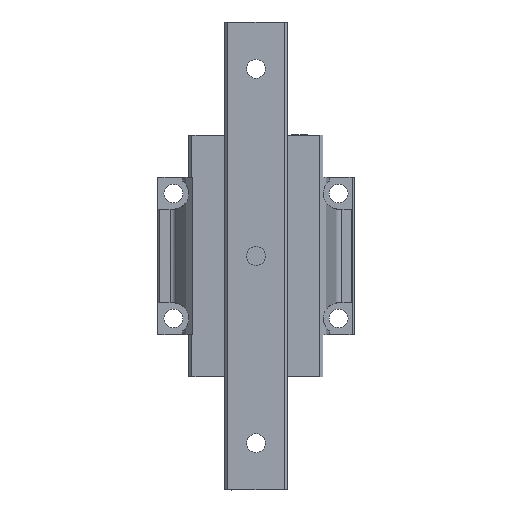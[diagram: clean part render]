
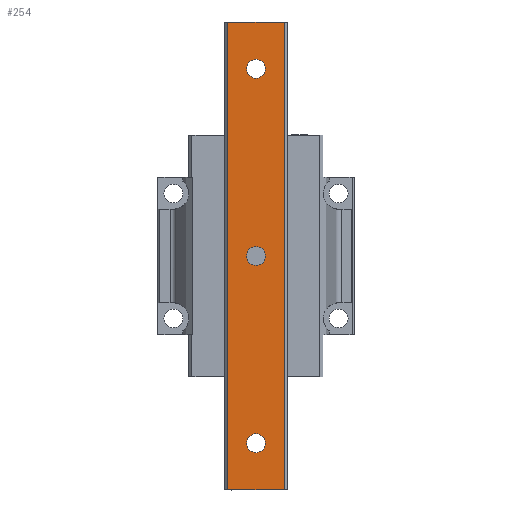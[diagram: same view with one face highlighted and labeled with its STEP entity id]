
A CAD part, front view. The second image highlights one B-rep face of the part: STEP entity #254.
In plain terms, the highlighted planar face has unit normal (0, -1, 0).
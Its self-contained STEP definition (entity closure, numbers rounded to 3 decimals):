
#118=FACE_BOUND('',#940,.T.);
#119=FACE_BOUND('',#941,.T.);
#120=FACE_BOUND('',#942,.T.);
#121=FACE_BOUND('',#943,.T.);
#254=ADVANCED_FACE('',(#118,#119,#120,#121),#500,.T.);
#500=PLANE('',#5211);
#940=EDGE_LOOP('',(#2492,#2493,#2494,#2495));
#941=EDGE_LOOP('',(#2496));
#942=EDGE_LOOP('',(#2497));
#943=EDGE_LOOP('',(#2498));
#1216=LINE('',#6945,#1799);
#1255=LINE('',#7069,#1838);
#1256=LINE('',#7071,#1839);
#1257=LINE('',#7073,#1840);
#1799=VECTOR('',#5574,1.);
#1838=VECTOR('',#5697,1.);
#1839=VECTOR('',#5700,1.);
#1840=VECTOR('',#5701,1.);
#2492=ORIENTED_EDGE('',*,*,#4390,.T.);
#2493=ORIENTED_EDGE('',*,*,#4391,.F.);
#2494=ORIENTED_EDGE('',*,*,#4392,.F.);
#2495=ORIENTED_EDGE('',*,*,#4328,.T.);
#2496=ORIENTED_EDGE('',*,*,#4393,.T.);
#2497=ORIENTED_EDGE('',*,*,#4394,.T.);
#2498=ORIENTED_EDGE('',*,*,#4395,.T.);
#3840=VERTEX_POINT('',#6944);
#3841=VERTEX_POINT('',#6946);
#3883=VERTEX_POINT('',#7068);
#3884=VERTEX_POINT('',#7072);
#3885=VERTEX_POINT('',#7075);
#3886=VERTEX_POINT('',#7077);
#3887=VERTEX_POINT('',#7079);
#4328=EDGE_CURVE('',#3841,#3840,#1216,.T.);
#4390=EDGE_CURVE('',#3840,#3883,#1255,.T.);
#4391=EDGE_CURVE('',#3884,#3883,#1256,.T.);
#4392=EDGE_CURVE('',#3841,#3884,#1257,.T.);
#4393=EDGE_CURVE('',#3885,#3885,#5067,.T.);
#4394=EDGE_CURVE('',#3886,#3886,#5068,.T.);
#4395=EDGE_CURVE('',#3887,#3887,#5069,.T.);
#5067=CIRCLE('',#5208,3.);
#5068=CIRCLE('',#5209,3.);
#5069=CIRCLE('',#5210,3.);
#5208=AXIS2_PLACEMENT_3D('',#7074,#5702,#5703);
#5209=AXIS2_PLACEMENT_3D('',#7076,#5704,#5705);
#5210=AXIS2_PLACEMENT_3D('',#7078,#5706,#5707);
#5211=AXIS2_PLACEMENT_3D('',#7080,#5708,#5709);
#5574=DIRECTION('',(1.,0.,0.));
#5697=DIRECTION('',(0.,0.,1.));
#5700=DIRECTION('',(1.,0.,0.));
#5701=DIRECTION('',(0.,0.,1.));
#5702=DIRECTION('',(0.,1.,0.));
#5703=DIRECTION('',(1.,0.,0.));
#5704=DIRECTION('',(0.,1.,0.));
#5705=DIRECTION('',(1.,0.,0.));
#5706=DIRECTION('',(0.,1.,0.));
#5707=DIRECTION('',(1.,0.,0.));
#5708=DIRECTION('',(0.,-1.,0.));
#5709=DIRECTION('',(-1.,0.,0.));
#6944=CARTESIAN_POINT('',(9.,-17.5,-75.));
#6945=CARTESIAN_POINT('',(-9.,-17.5,-75.));
#6946=CARTESIAN_POINT('',(-9.,-17.5,-75.));
#7068=CARTESIAN_POINT('',(9.,-17.5,75.));
#7069=CARTESIAN_POINT('',(9.,-17.5,-75.));
#7071=CARTESIAN_POINT('',(-9.,-17.5,75.));
#7072=CARTESIAN_POINT('',(-9.,-17.5,75.));
#7073=CARTESIAN_POINT('',(-9.,-17.5,-75.));
#7074=CARTESIAN_POINT('',(0.,-17.5,0.));
#7075=CARTESIAN_POINT('',(3.,-17.5,0.));
#7076=CARTESIAN_POINT('',(0.,-17.5,60.));
#7077=CARTESIAN_POINT('',(3.,-17.5,60.));
#7078=CARTESIAN_POINT('',(0.,-17.5,-60.));
#7079=CARTESIAN_POINT('',(3.,-17.5,-60.));
#7080=CARTESIAN_POINT('',(-9.9,-17.5,-82.5));
